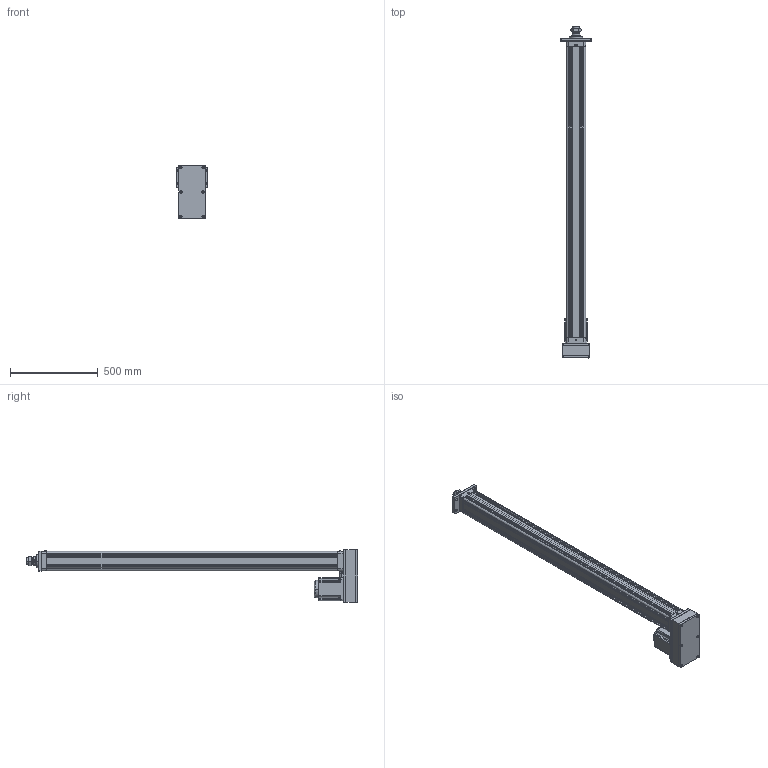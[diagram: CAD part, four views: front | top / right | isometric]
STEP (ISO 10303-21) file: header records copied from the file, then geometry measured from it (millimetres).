
FILE_DESCRIPTION((''),'2;1');
FILE_NAME('ASM0002_ASM','2020-04-10T',('ASUS20200'),(''),'CREO PARAMETRIC BY PTC INC, 2014190','CREO PARAMETRIC BY PTC INC, 2014190','');
FILE_SCHEMA(('CONFIG_CONTROL_DESIGN'));
Length unit declared in the file: millimetre
Products named in the file (26): HE100-D-P-001-X1; HE100-D-P-002-X1; HE100-D-P-003-X1; 30305J; JDB506030; SLM-01; YZ-M6X1; HE100-100-D-P-X1_ASM; HE100-P-010-X1-130N; 130ST-M10010; HE100-P-009-X1-130N; HE100-P-013-X1-130N; TD-8; M8X35; M8X75; LM-M8-7-5; M10X1-25-40; LM-M10-30; LM-M10; HE100-D-P-005-X1; HE100-D-P-004-X1; HE80-D-P-008-X1; LGLM-M10-25; F-SE100FA; M10X25; ASM0002_ASM
Assembly tree (46 placements, depth 3):
  ASM0002_ASM
    HE100-100-D-P-X1_ASM
      HE100-D-P-001-X1
      HE100-D-P-002-X1
      HE100-D-P-003-X1
      30305J  x2
      JDB506030
      SLM-01
      YZ-M6X1
    HE100-P-010-X1-130N
    130ST-M10010
    HE100-P-009-X1-130N
    HE100-P-013-X1-130N
    TD-8  x4
    M8X35  x4
    M8X75  x6
    LM-M8-7-5  x4
    M10X1-25-40
    LM-M10-30
    LM-M10
    HE100-D-P-005-X1
    HE100-D-P-004-X1
    HE80-D-P-008-X1
    LGLM-M10-25  x4
    F-SE100FA
    M10X25  x4
Bounding box: 176 x 1894 x 300 mm (x, y, z)
Volume: 10121406.7 mm3; surface area: 2857246.1 mm2
Topology: 45 solids, 75 shells, 2023 faces, 4661 edges, 2831 vertices
Faces by surface type: plane 724, cone 620, cylinder 543, torus 106, sphere 26, bspline 4
Entity records: 45207 total; most frequent: CARTESIAN_POINT 8777, DIRECTION 8080, ORIENTED_EDGE 6960, EDGE_CURVE 3531, AXIS2_PLACEMENT_3D 3123, VERTEX_POINT 2144, VECTOR 1834, LINE 1834
